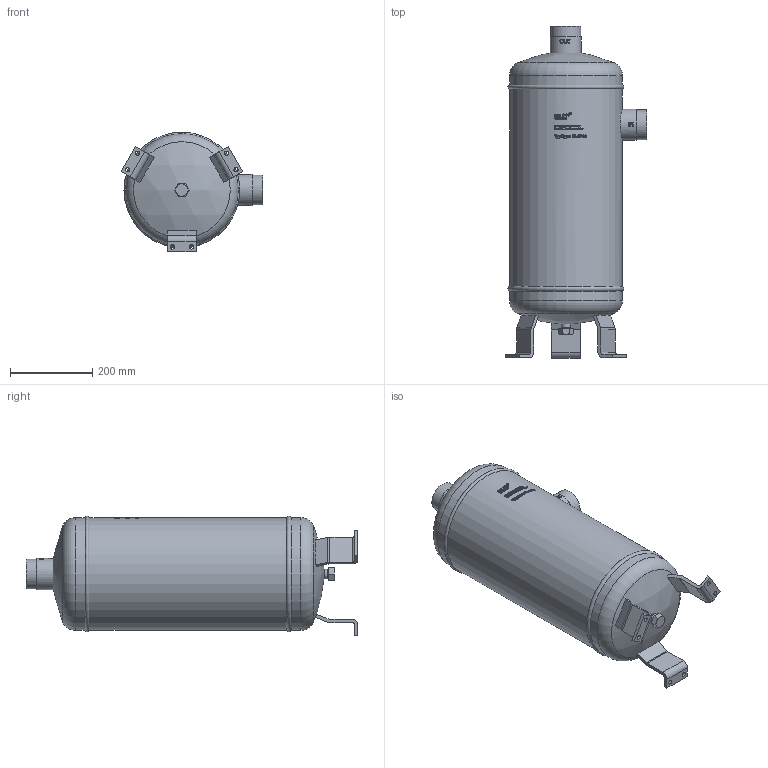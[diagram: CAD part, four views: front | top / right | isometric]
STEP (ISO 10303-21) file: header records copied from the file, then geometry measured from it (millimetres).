
FILE_DESCRIPTION(/* description */ (''),/* implementation_level */ '2;1');
FILE_NAME(/* name */ 'P:\FA\FA-67-32\FA-67-32.stp',/* time_stamp */ '2017-11-10T13:48:07+01:00',/* author */ ('neufeld'),/* organization */ (''),/* preprocessor_version */ 'ST-DEVELOPER v16.1',/* originating_system */ 'Autodesk Inventor 2016',/* authorisation */ '');
FILE_SCHEMA (('AUTOMOTIVE_DESIGN { 1 0 10303 214 3 1 1 }'));
Length unit declared in the file: millimetre
Products named in the file (1): FA-67-32_AG-Kunde
Bounding box: 343.9 x 804.69 x 290.38 mm (x, y, z)
Volume: 37048112.3 mm3; surface area: 741497.7 mm2
Topology: 1 solids, 1 shells, 1374 faces, 3738 edges, 2485 vertices
Faces by surface type: plane 745, bspline 466, cylinder 140, cone 17, torus 4, sphere 2
Full cylindrical faces by diameter (mm): 10.5 x6, 22.5 x1, 25.2 x1, 67.3 x2, 72.5 x2, 75.4 x2, 273.2 x3
Entity records: 53375 total; most frequent: CARTESIAN_POINT 20956, ORIENTED_EDGE 7408, DIRECTION 5546, EDGE_CURVE 3704, VERTEX_POINT 2478, AXIS2_PLACEMENT_3D 1890, LINE 1766, VECTOR 1766
